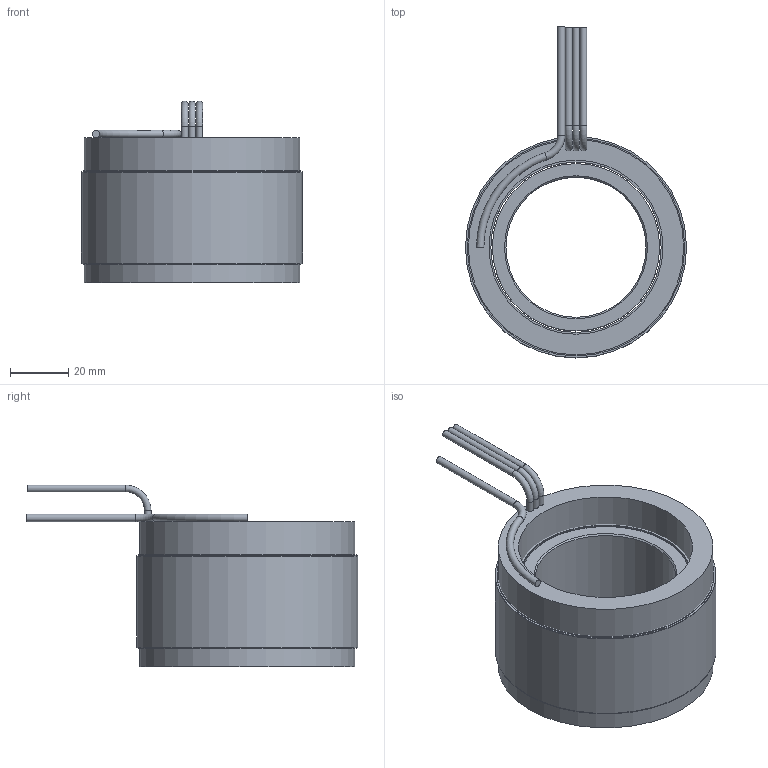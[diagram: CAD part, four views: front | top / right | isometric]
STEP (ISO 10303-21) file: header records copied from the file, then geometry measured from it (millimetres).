
FILE_DESCRIPTION (( 'STEP AP214' ), '1' );
FILE_NAME ('6100392-03.STEP', '2020-12-15T03:00:24', ( '' ), ( '' ), 'SwSTEP 2.0', 'SolidWorks 2016', '' );
FILE_SCHEMA (( 'AUTOMOTIVE_DESIGN' ));
Length unit declared in the file: inch
Products named in the file (10): 4150179-XX_4150179-03; 4450190-XX_4450190-03; 4600566-00; 4250380-XX_4250380-03; 4400102-00; 4500559-XX_4500559-03; 6100392-03; COMP4500559-XX(COIL)_COMP4500559-03(COIL)
Assembly tree (10 placements, depth 4):
  6100392-03
    4500559-XX_4500559-03
      4450190-XX_4450190-03
        4450190-XX_4450190-03
        4400102-00
        4400102-00
        4600566-00  x2
      COMP4500559-XX(COIL)_COMP4500559-03(COIL)
    4250380-XX_4250380-03
      4150179-XX_4150179-03
Bounding box: 76.2 x 114.3 x 62.61 mm (x, y, z)
Volume: 160624.2 mm3; surface area: 69531.6 mm2
Topology: 8 solids, 8 shells, 47 faces, 74 edges, 46 vertices
Faces by surface type: cylinder 21, plane 19, torus 5, cone 2
Full cylindrical faces by diameter (mm): 2.286 x6, 2.54 x1, 48.26 x1, 57.658 x1, 58.674 x5, 59.944 x1, 74.168 x1, 74.93 x2, 76.2 x3
Entity records: 1305 total; most frequent: DIRECTION 202, CARTESIAN_POINT 143, AXIS2_PLACEMENT_3D 101, ORIENTED_EDGE 84, EDGE_LOOP 84, FACE_OUTER_BOUND 67, ADVANCED_FACE 43, CIRCLE 42
